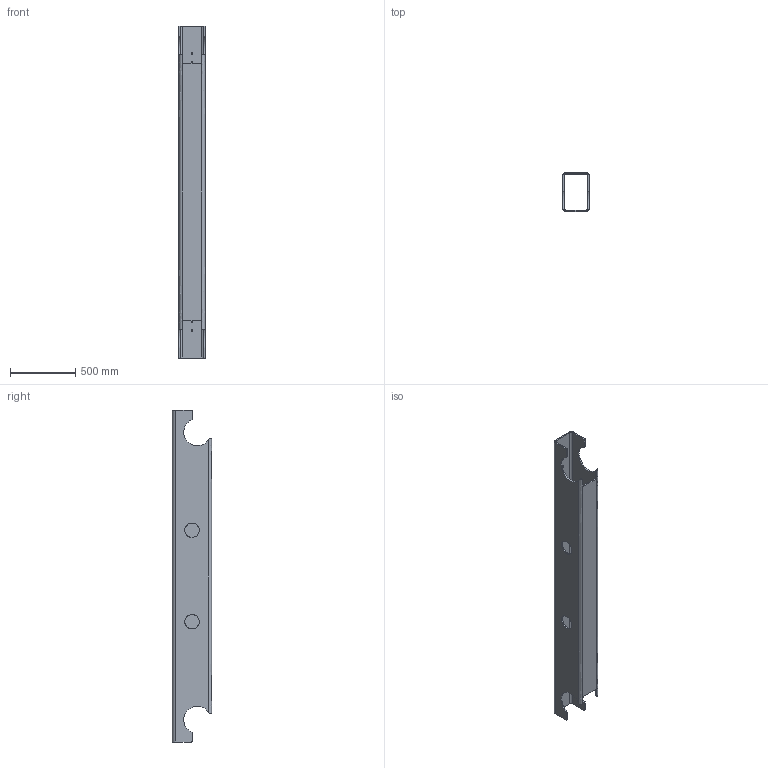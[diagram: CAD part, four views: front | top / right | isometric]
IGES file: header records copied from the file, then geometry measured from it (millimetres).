
Global section: file name: 01 1шт; native system: Autodesk Inventor 2025; preprocessor: unknown; author: Кочнев Д,,11,0,; organization: 20240509.000000; date: 20260427.152006; units: millimetre
Bounding box: 200 x 300 x 2540 mm (x, y, z)
Volume: 20517242.5 mm3; surface area: 4147603.6 mm2
Topology: 1 solids, 1 shells, 66 faces, 192 edges, 126 vertices
Faces by surface type: bspline 66
